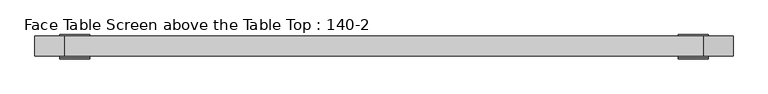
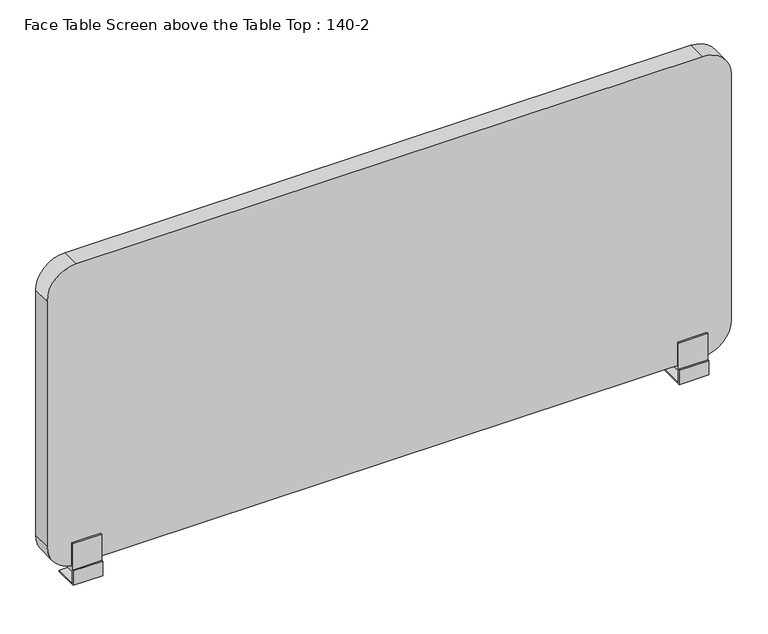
"""IFC4 building model written with IfcOpenShell, lengths in millimetres: furniture geometry, Face Table Screen above the Table Top : 140-2."""

from ifc_helpers import new_model, si_unit, point, frame, frame_2d, origin, place, context, project, spatial, polyline, circle_curve, trimmed, segment, composite_curve, outline, extrude, source, transform, mapped, element, save
from ifc_brep_helpers import plane_surface, cylinder_surface, advanced_brep


def face_table_screen_above_the_table_top_140_2_1f020383(model_context):
    return source(origin(), model_context, "Body", "SolidModel", [
        advanced_brep(
        [(-625.0, 0.0, -39.4406633), (-615.0, 0.0, -39.4406633), (-615.0, 0.0, -28.0), (-625.0, 0.0, -28.0), (-650.0, 23.0, -25.0), (-650.0, -23.0, -25.0), (-590.0, -23.0, -25.0), (-590.0, 23.0, -25.0), (-650.0, -23.0, 0.0), (-650.0, 23.0, -28.0), (-650.0, -26.0, -28.0), (-650.0, -26.0, 3.0), (-650.0, -23.0, 3.0), (-650.0, -23.0, 60.0), (-650.0, -20.0, 60.0), (-650.0, -20.0, 10.0), (-650.0, 20.0, 10.0), (-650.0, 20.0, 60.0), (-650.0, 23.0, 60.0), (-650.0, 23.0, 0.0), (-590.0, -23.0, 0.0), (-590.0, 23.0, 0.0), (-590.0, 23.0, 60.0), (-590.0, 20.0, 60.0), (-590.0, 20.0, 10.0), (-590.0, -20.0, 10.0), (-590.0, -20.0, 60.0), (-590.0, -23.0, 60.0), (-590.0, -23.0, 3.0), (-590.0, -26.0, 3.0), (-590.0, -26.0, -28.0), (-590.0, 23.0, -28.0)],
        [
            (0, 1, circle_curve(frame((-620.0, 0.0, -39.4406633), z_axis=(0.0, 0.0, -1.0), x_axis=(1.0, 0.0, 0.0)), 5.0)),
            (1, 0, circle_curve(frame((-620.0, 0.0, -39.4406633), z_axis=(0.0, 0.0, -1.0), x_axis=(1.0, 0.0, 0.0)), 5.0)),
            (1, 2),
            (2, 3, circle_curve(frame((-620.0, 0.0, -28.0), z_axis=(0.0, 0.0, -1.0), x_axis=(1.0, 0.0, 0.0)), 5.0)),
            (3, 0),
            (3, 2, circle_curve(frame((-620.0, 0.0, -28.0), z_axis=(0.0, 0.0, -1.0), x_axis=(1.0, 0.0, 0.0)), 5.0)),
            (4, 5),
            (5, 6),
            (6, 7),
            (7, 4),
            (8, 5),
            (4, 9),
            (9, 10),
            (10, 11),
            (11, 12),
            (12, 13),
            (13, 14),
            (14, 15),
            (15, 16),
            (16, 17),
            (17, 18),
            (18, 19),
            (19, 8),
            (20, 21),
            (21, 22),
            (22, 23),
            (23, 24),
            (24, 25),
            (25, 26),
            (26, 27),
            (27, 28),
            (28, 29),
            (29, 30),
            (30, 31),
            (31, 7),
            (6, 20),
            (19, 21),
            (20, 8),
            (18, 22),
            (17, 23),
            (16, 24),
            (15, 25),
            (14, 26),
            (13, 27),
            (12, 28),
            (11, 29),
            (10, 30),
            (9, 31),
        ],
        [
            plane_surface(frame((-615.0, 0.0, -39.4406633), z_axis=(0.0, 0.0, -1.0), x_axis=(0.0, -1.0, 0.0))),
            cylinder_surface(frame((-620.0, 0.0, -39.4406633), z_axis=(0.0, 0.0, 1.0), x_axis=(1.0, 0.0, 0.0)), 5.0),
            plane_surface(frame((-615.0, 0.0, -25.0), z_axis=(0.0, 0.0, 1.0), x_axis=(0.0, 1.0, 0.0))),
            plane_surface(frame((-650.0, 23.0, 0.0), z_axis=(-1.0, 0.0, 0.0), x_axis=(0.0, -1.0, 0.0))),
            plane_surface(frame((-590.0, 23.0, 0.0), z_axis=(1.0, 0.0, 0.0), x_axis=(0.0, 1.0, 0.0))),
            plane_surface(frame((-590.0, -23.0, 0.0), z_axis=(0.0, 0.0, -1.0), x_axis=(-1.0, 0.0, 0.0))),
            plane_surface(frame((-590.0, 23.0, 0.0), z_axis=(0.0, 1.0, 0.0), x_axis=(-1.0, 0.0, 0.0))),
            plane_surface(frame((-590.0, 23.0, 60.0), z_axis=(0.0, 0.0, 1.0), x_axis=(-1.0, 0.0, 0.0))),
            plane_surface(frame((-590.0, 20.0, 60.0), z_axis=(0.0, -1.0, 0.0), x_axis=(-1.0, 0.0, 0.0))),
            plane_surface(frame((-590.0, 20.0, 10.0), z_axis=(0.0, 0.0, 1.0), x_axis=(-1.0, 0.0, 0.0))),
            plane_surface(frame((-590.0, -20.0, 10.0), z_axis=(0.0, 1.0, 0.0), x_axis=(-1.0, 0.0, 0.0))),
            plane_surface(frame((-590.0, -20.0, 60.0), z_axis=(0.0, 0.0, 1.0), x_axis=(-1.0, 0.0, 0.0))),
            plane_surface(frame((-590.0, -23.0, 60.0), z_axis=(0.0, -1.0, 0.0), x_axis=(-1.0, 0.0, 0.0))),
            plane_surface(frame((-590.0, -23.0, 3.0), z_axis=(0.0, 0.0, 1.0), x_axis=(-1.0, 0.0, 0.0))),
            plane_surface(frame((-590.0, -26.0, 3.0), z_axis=(0.0, -1.0, 0.0), x_axis=(-1.0, 0.0, 0.0))),
            plane_surface(frame((-590.0, -26.0, -28.0), z_axis=(0.0, 0.0, -1.0), x_axis=(-1.0, 0.0, 0.0))),
            plane_surface(frame((-590.0, 23.0, -28.0), z_axis=(0.0, 1.0, 0.0), x_axis=(-1.0, 0.0, 0.0))),
            plane_surface(frame((-590.0, -23.0, -25.0), z_axis=(0.0, 1.0, 0.0), x_axis=(-1.0, 0.0, 0.0))),
        ],
        [
            (0, [[1, 2]]),
            (1, [[-2, 3, 4, 5]]),
            (1, [[-1, -5, 6, -3]]),
            (2, [[7, 8, 9, 10]]),
            (3, [[11, -7, 12, 13, 14, 15, 16, 17, 18, 19, 20, 21, 22, 23]]),
            (4, [[24, 25, 26, 27, 28, 29, 30, 31, 32, 33, 34, 35, -9, 36]]),
            (5, [[-23, 37, -24, 38]]),
            (6, [[-22, 39, -25, -37]]),
            (7, [[-21, 40, -26, -39]]),
            (8, [[-20, 41, -27, -40]]),
            (9, [[-19, 42, -28, -41]]),
            (10, [[-18, 43, -29, -42]]),
            (11, [[-17, 44, -30, -43]]),
            (12, [[-16, 45, -31, -44]]),
            (13, [[-15, 46, -32, -45]]),
            (14, [[-14, 47, -33, -46]]),
            (15, [[-13, 48, -34, -47], [-4, -6]]),
            (16, [[-12, -10, -35, -48]]),
            (17, [[-11, -38, -36, -8]]),
        ],
    ),
        advanced_brep(
        [(615.0, 0.0, -39.4406633), (625.0, 0.0, -39.4406633), (625.0, 0.0, -28.0), (615.0, 0.0, -28.0), (590.0, 23.0, -25.0), (590.0, -23.0, -25.0), (650.0, -23.0, -25.0), (650.0, 23.0, -25.0), (590.0, -23.0, 0.0), (590.0, 23.0, -28.0), (590.0, -26.0, -28.0), (590.0, -26.0, 3.0), (590.0, -23.0, 3.0), (590.0, -23.0, 60.0), (590.0, -20.0, 60.0), (590.0, -20.0, 10.0), (590.0, 20.0, 10.0), (590.0, 20.0, 60.0), (590.0, 23.0, 60.0), (590.0, 23.0, 0.0), (650.0, -23.0, 0.0), (650.0, 23.0, 0.0), (650.0, 23.0, 60.0), (650.0, 20.0, 60.0), (650.0, 20.0, 10.0), (650.0, -20.0, 10.0), (650.0, -20.0, 60.0), (650.0, -23.0, 60.0), (650.0, -23.0, 3.0), (650.0, -26.0, 3.0), (650.0, -26.0, -28.0), (650.0, 23.0, -28.0)],
        [
            (0, 1, circle_curve(frame((620.0, 0.0, -39.4406633), z_axis=(0.0, 0.0, -1.0), x_axis=(1.0, 0.0, 0.0)), 5.0)),
            (1, 0, circle_curve(frame((620.0, 0.0, -39.4406633), z_axis=(0.0, 0.0, -1.0), x_axis=(1.0, 0.0, 0.0)), 5.0)),
            (1, 2),
            (2, 3, circle_curve(frame((620.0, 0.0, -28.0), z_axis=(0.0, 0.0, -1.0), x_axis=(1.0, 0.0, 0.0)), 5.0)),
            (3, 0),
            (3, 2, circle_curve(frame((620.0, 0.0, -28.0), z_axis=(0.0, 0.0, -1.0), x_axis=(1.0, 0.0, 0.0)), 5.0)),
            (4, 5),
            (5, 6),
            (6, 7),
            (7, 4),
            (8, 5),
            (4, 9),
            (9, 10),
            (10, 11),
            (11, 12),
            (12, 13),
            (13, 14),
            (14, 15),
            (15, 16),
            (16, 17),
            (17, 18),
            (18, 19),
            (19, 8),
            (20, 21),
            (21, 22),
            (22, 23),
            (23, 24),
            (24, 25),
            (25, 26),
            (26, 27),
            (27, 28),
            (28, 29),
            (29, 30),
            (30, 31),
            (31, 7),
            (6, 20),
            (19, 21),
            (20, 8),
            (18, 22),
            (17, 23),
            (16, 24),
            (15, 25),
            (14, 26),
            (13, 27),
            (12, 28),
            (11, 29),
            (10, 30),
            (9, 31),
        ],
        [
            plane_surface(frame((625.0, 0.0, -39.4406633), z_axis=(0.0, 0.0, -1.0), x_axis=(0.0, -1.0, 0.0))),
            cylinder_surface(frame((620.0, 0.0, -39.4406633), z_axis=(0.0, 0.0, 1.0), x_axis=(1.0, 0.0, 0.0)), 5.0),
            plane_surface(frame((625.0, 0.0, -25.0), z_axis=(0.0, 0.0, 1.0), x_axis=(0.0, 1.0, 0.0))),
            plane_surface(frame((590.0, 23.0, 0.0), z_axis=(-1.0, 0.0, 0.0), x_axis=(0.0, -1.0, 0.0))),
            plane_surface(frame((650.0, 23.0, 0.0), z_axis=(1.0, 0.0, 0.0), x_axis=(0.0, 1.0, 0.0))),
            plane_surface(frame((650.0, -23.0, 0.0), z_axis=(0.0, 0.0, -1.0), x_axis=(-1.0, 0.0, 0.0))),
            plane_surface(frame((650.0, 23.0, 0.0), z_axis=(0.0, 1.0, 0.0), x_axis=(-1.0, 0.0, 0.0))),
            plane_surface(frame((650.0, 23.0, 60.0), z_axis=(0.0, 0.0, 1.0), x_axis=(-1.0, 0.0, 0.0))),
            plane_surface(frame((650.0, 20.0, 60.0), z_axis=(0.0, -1.0, 0.0), x_axis=(-1.0, 0.0, 0.0))),
            plane_surface(frame((650.0, 20.0, 10.0), z_axis=(0.0, 0.0, 1.0), x_axis=(-1.0, 0.0, 0.0))),
            plane_surface(frame((650.0, -20.0, 10.0), z_axis=(0.0, 1.0, 0.0), x_axis=(-1.0, 0.0, 0.0))),
            plane_surface(frame((650.0, -20.0, 60.0), z_axis=(0.0, 0.0, 1.0), x_axis=(-1.0, 0.0, 0.0))),
            plane_surface(frame((650.0, -23.0, 60.0), z_axis=(0.0, -1.0, 0.0), x_axis=(-1.0, 0.0, 0.0))),
            plane_surface(frame((650.0, -23.0, 3.0), z_axis=(0.0, 0.0, 1.0), x_axis=(-1.0, 0.0, 0.0))),
            plane_surface(frame((650.0, -26.0, 3.0), z_axis=(0.0, -1.0, 0.0), x_axis=(-1.0, 0.0, 0.0))),
            plane_surface(frame((650.0, -26.0, -28.0), z_axis=(0.0, 0.0, -1.0), x_axis=(-1.0, 0.0, 0.0))),
            plane_surface(frame((650.0, 23.0, -28.0), z_axis=(0.0, 1.0, 0.0), x_axis=(-1.0, 0.0, 0.0))),
            plane_surface(frame((650.0, -23.0, -25.0), z_axis=(0.0, 1.0, 0.0), x_axis=(-1.0, 0.0, 0.0))),
        ],
        [
            (0, [[1, 2]]),
            (1, [[-2, 3, 4, 5]]),
            (1, [[-1, -5, 6, -3]]),
            (2, [[7, 8, 9, 10]]),
            (3, [[11, -7, 12, 13, 14, 15, 16, 17, 18, 19, 20, 21, 22, 23]]),
            (4, [[24, 25, 26, 27, 28, 29, 30, 31, 32, 33, 34, 35, -9, 36]]),
            (5, [[-23, 37, -24, 38]]),
            (6, [[-22, 39, -25, -37]]),
            (7, [[-21, 40, -26, -39]]),
            (8, [[-20, 41, -27, -40]]),
            (9, [[-19, 42, -28, -41]]),
            (10, [[-18, 43, -29, -42]]),
            (11, [[-17, 44, -30, -43]]),
            (12, [[-16, 45, -31, -44]]),
            (13, [[-15, 46, -32, -45]]),
            (14, [[-14, 47, -33, -46]]),
            (15, [[-13, 48, -34, -47], [-4, -6]]),
            (16, [[-12, -10, -35, -48]]),
            (17, [[-11, -38, -36, -8]]),
        ],
    ),
        extrude(outline(composite_curve([segment(polyline([(660.0, 640.0), (660.0, -640.0)]), True, "CONTINUOUS"), segment(trimmed(circle_curve(frame_2d((600.0, -640.0)), 60.0), [point((660.0, -640.0))], [point((600.0, -700.0))], False, "CARTESIAN"), True, "CONTINUOUS"), segment(polyline([(600.0, -700.0), (70.0, -700.0)]), True, "CONTINUOUS"), segment(trimmed(circle_curve(frame_2d((70.0, -640.0)), 60.0), [point((70.0, -700.0))], [point((10.0, -640.0))], False, "CARTESIAN"), True, "CONTINUOUS"), segment(polyline([(10.0, -640.0), (10.0, 640.0)]), True, "CONTINUOUS"), segment(trimmed(circle_curve(frame_2d((70.0, 640.0)), 60.0), [point((10.0, 640.0))], [point((70.0, 700.0))], False, "CARTESIAN"), True, "CONTINUOUS"), segment(polyline([(70.0, 700.0), (600.0, 700.0)]), True, "CONTINUOUS"), segment(trimmed(circle_curve(frame_2d((600.0, 640.0)), 60.0), [point((600.0, 700.0))], [point((660.0, 640.0))], False, "CARTESIAN"), True, "CONTINUOUS")], self_intersect=False)), frame((0.0, -20.0, 0.0), z_axis=(0.0, 1.0, 0.0), x_axis=(0.0, 0.0, 1.0)), (0.0, 0.0, 1.0), 40.0),
    ])


if __name__ == "__main__":
    model = new_model("IFC4")
    model_context = context("Model", 3, world=origin())
    ifc_project = project(units=[si_unit("LENGTHUNIT", "METRE", prefix="MILLI")], contexts=[model_context])
    site = spatial("IfcSite", under=ifc_project)
    building = spatial("IfcBuilding", under=site)
    placement = place(None, origin())
    face_table_screen_above_the_table_top_140_2_shape = face_table_screen_above_the_table_top_140_2_1f020383(model_context)
    element("IfcFurniture", 1, ObjectType="Face Table Screen above the Table Top : 140-2", at=placement, inside=building, context=model_context, shape_type="MappedRepresentation", body=[
        mapped(face_table_screen_above_the_table_top_140_2_shape, transform((0.0, 0.0, 0.0), x_axis=(1.0, 0.0, 0.0), y_axis=(0.0, 1.0, 0.0), z_axis=(0.0, 0.0, 1.0))),
    ])
    save(model, "model.ifc")
